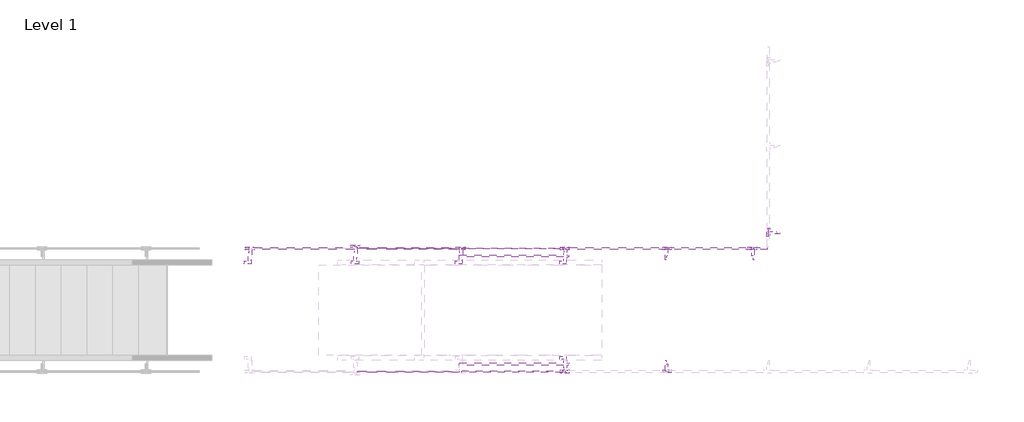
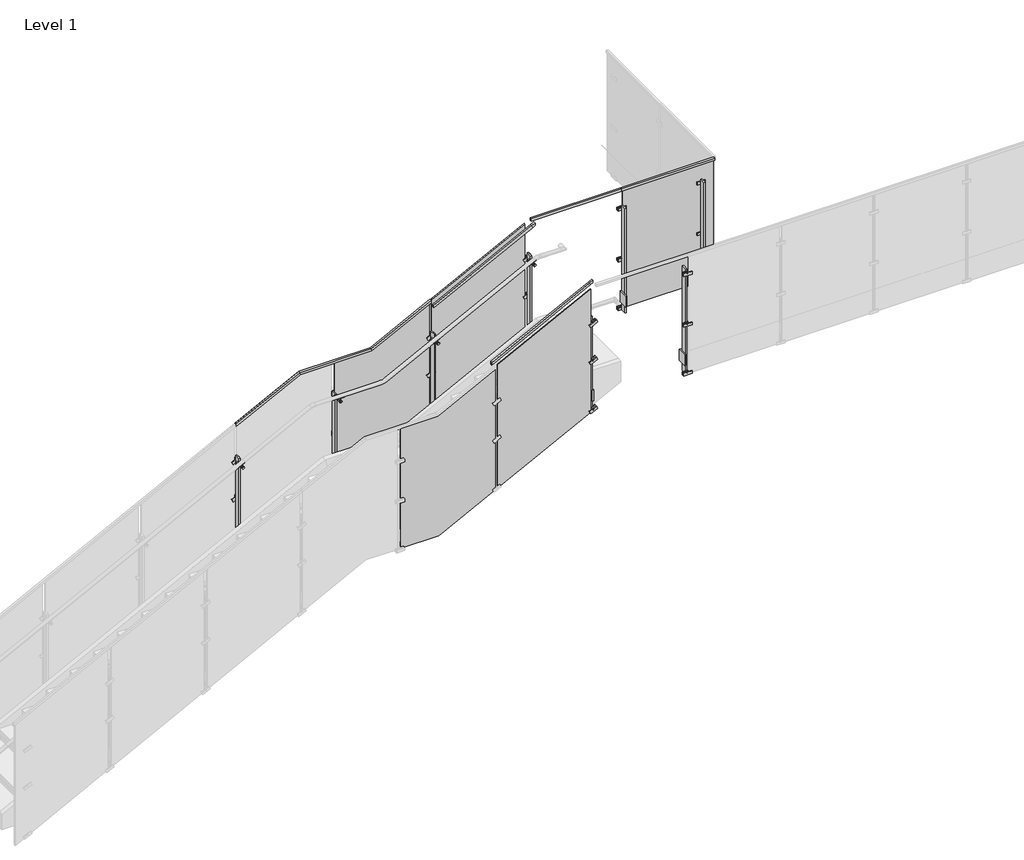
# One storey, part 35 of 37: 6 railings, 4 proxies.
"""IFC4 building model written with IfcOpenShell, lengths in millimetres."""

from ifc_helpers import new_model, si_unit, point, frame, frame_2d, origin, place, context, project, spatial, polyline, circle_curve, trimmed, segment, composite_curve, outline, extrude, faceted_brep, transform, mapped, element, save
from components import baluster_end_post_viva_solo_top_mount_5ac118a2, baluster_end_post_viva_solo_top_mount_22cecde8, baluster_end_post_viva_solo_top_mount_54df99a4, baluster_end_post_viva_solo_top_mount_d0627824, baluster_landing_panel_viva_solo_upper_standard_glass_c31046ff, baluster_landing_panel_viva_solo_upper_standard_glass_9b4894e7

model = new_model("IFC4")

# Units and contexts
model_context = context("Model", 3, world=origin())
ifc_project = project(units=[si_unit("LENGTHUNIT", "METRE", prefix="MILLI")], contexts=[model_context])

# Site, building, storey
site = spatial("IfcSite", under=ifc_project)
building = spatial("IfcBuilding", under=site)
storey = spatial("IfcBuildingStorey", under=building, Name="Level 1", Elevation=0.0)

# Proxies
placement = place(None, origin())
baluster_end_post_viva_solo_top_mount_shape = baluster_end_post_viva_solo_top_mount_5ac118a2(model_context)
element("IfcBuildingElementProxy", 1, Name="Baluster-End-Post-VIVA-SOLO-Top Mount : ANCHORED TO CONCRETE_FASCIA A1 MOUNT FOLD_STRAIGHT", ObjectType="Baluster-End-Post-VIVA-SOLO-Top Mount : ANCHORED TO CONCRETE_FASCIA A1 MOUNT FOLD_STRAIGHT", at=placement, inside=storey, context=model_context, shape_type="MappedRepresentation", body=[
    mapped(baluster_end_post_viva_solo_top_mount_shape, transform((9766.8486767, 33772.1570581, 3047.492), x_axis=(0.0, 1.0, 0.0), y_axis=(-1.0, 0.0, 0.0), z_axis=(0.0, 0.0, 1.0))),
])
baluster_end_post_viva_solo_top_mount_2_shape = baluster_end_post_viva_solo_top_mount_22cecde8(model_context)
element("IfcBuildingElementProxy", 2, Name="Baluster-End-Post-VIVA-SOLO-Top Mount : ANCHORED TO CONCRETE_FASCIA A1 MOUNT FOLD_STRAIGHT", ObjectType="Baluster-End-Post-VIVA-SOLO-Top Mount : ANCHORED TO CONCRETE_FASCIA A1 MOUNT FOLD_STRAIGHT", at=placement, inside=storey, context=model_context, shape_type="MappedRepresentation", body=[
    mapped(baluster_end_post_viva_solo_top_mount_2_shape, transform((9815.6346922, 33817.0879454, 3047.492), x_axis=(1.0, 0.0, 0.0), y_axis=(0.0, 1.0, 0.0), z_axis=(0.0, 0.0, 1.0))),
])
baluster_end_post_viva_solo_top_mount_3_shape = baluster_end_post_viva_solo_top_mount_54df99a4(model_context)
element("IfcBuildingElementProxy", 3, Name="Baluster-End-Post-VIVA-SOLO-Top Mount : ANCHORED TO CONCRETE_FASCIA A1 MOUNT FOLD_STRAIGHT", ObjectType="Baluster-End-Post-VIVA-SOLO-Top Mount : ANCHORED TO CONCRETE_FASCIA A1 MOUNT FOLD_STRAIGHT", at=placement, inside=storey, context=model_context, shape_type="MappedRepresentation", body=[
    mapped(baluster_end_post_viva_solo_top_mount_3_shape, transform((8799.6346922, 32455.5933835, 3047.492), x_axis=(-1.0, 0.0, 0.0), y_axis=(0.0, -1.0, 0.0), z_axis=(0.0, 0.0, 1.0))),
])
baluster_end_post_viva_solo_top_mount_4_shape = baluster_end_post_viva_solo_top_mount_d0627824(model_context)
element("IfcBuildingElementProxy", 4, Name="Baluster-End-Post-VIVA-SOLO-Top Mount : ANCHORED TO CONCRETE_FASCIA A1 MOUNT FOLD_STRAIGHT", ObjectType="Baluster-End-Post-VIVA-SOLO-Top Mount : ANCHORED TO CONCRETE_FASCIA A1 MOUNT FOLD_STRAIGHT", at=placement, inside=storey, context=model_context, shape_type="MappedRepresentation", body=[
    mapped(baluster_end_post_viva_solo_top_mount_4_shape, transform((8799.6346922, 33817.0879454, 3047.492), x_axis=(1.0, 0.0, 0.0), y_axis=(0.0, 1.0, 0.0), z_axis=(0.0, 0.0, 1.0))),
])

# Railings
element("IfcRailing", 5, ObjectType="VIVA-SOLO-Glass-Fascia Mount-Stair-A1_Right_Upper", at=placement, inside=storey, context=model_context, shape_type="SolidModel", body=[
    faceted_brep([(6699.3721922, 32577.8581645, 3564.4038176), (6699.3721922, 32600.0831645, 3564.4038176), (6699.3721922, 32600.0831645, 3535.902629), (6699.3721922, 32595.3206645, 3535.902629), (6699.3721922, 32595.3206645, 3559.0598447), (6699.3721922, 32582.6206645, 3559.0598447), (6699.3721922, 32582.6206645, 3535.902629), (6699.3721922, 32577.8581645, 3535.902629), (7766.1721922, 32577.8581645, 4107.4197243), (7766.1721922, 32600.0831645, 4107.4197243), (7777.694355, 32600.0831645, 4084.7834754), (7777.694355, 32595.3206645, 4084.7834754), (7768.3325977, 32595.3206645, 4103.1754276), (7768.3325977, 32582.6206645, 4103.1754276), (7777.694355, 32582.6206645, 4084.7834754), (7777.694355, 32577.8581645, 4084.7834754), (7805.6215672, 32577.8581645, 4127.5), (7805.6215672, 32577.8581645, 4098.9988114), (7805.6215672, 32582.6206645, 4098.9988114), (7805.6215672, 32582.6206645, 4122.1560271), (7805.6215672, 32595.3206645, 4122.1560271), (7805.6215672, 32595.3206645, 4098.9988114), (7805.6215672, 32600.0831645, 4098.9988114), (7805.6215672, 32600.0831645, 4127.5)], [[[0, 1, 2, 3, 4, 5, 6, 7]], [[1, 0, 8, 9]], [[2, 1, 9, 10]], [[3, 2, 10, 11]], [[4, 3, 11, 12]], [[5, 4, 12, 13]], [[6, 5, 13, 14]], [[7, 6, 14, 15]], [[0, 7, 15, 8]], [[16, 17, 18, 19, 20, 21, 22, 23]], [[9, 8, 16, 23]], [[10, 9, 23, 22]], [[11, 10, 22, 21]], [[12, 11, 21, 20]], [[13, 12, 20, 19]], [[14, 13, 19, 18]], [[15, 14, 18, 17]], [[8, 15, 17, 16]]]),
    extrude(outline(polyline([(4089.1567741, 7741.1552388), (3571.9987678, 6725.1552388), (2154.9327678, 6725.1552388), (2672.0907741, 7741.1552388), (4089.1567741, 7741.1552388)])), frame((0.0, 32506.4206645, 0.0), z_axis=(0.0, 1.0, 0.0), x_axis=(0.0, 0.0, 1.0)), (0.0, 0.0, 1.0), 12.7),
    extrude(outline(composite_curve([segment(trimmed(circle_curve(frame_2d((0.0, -7.0)), 7.0), [point((0.0, -14.0))], [point((0.0, 0.0))], False, "CARTESIAN"), True, "CONTINUOUS"), segment(trimmed(circle_curve(frame_2d((0.0, -7.0)), 7.0), [point((0.0, 0.0))], [point((0.0, -14.0))], False, "CARTESIAN"), True, "CONTINUOUS")], self_intersect=False)), frame((7772.7586852, 32644.6306015, 3678.3251604), z_axis=(-0.4457291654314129, 0.0, 0.8951678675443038), x_axis=(-0.8951678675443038, 0.0, -0.4457291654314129)), (0.0, 0.0, 1.0), 50.5982576),
    extrude(outline(composite_curve([segment(trimmed(circle_curve(frame_2d((3691.1275186, 7766.2910269)), 12.5), [point((3691.1275186, 7778.7910269))], [point((3691.1275186, 7753.7910269))], False, "CARTESIAN"), True, "CONTINUOUS"), segment(trimmed(circle_curve(frame_2d((3691.1275186, 7766.2910269)), 12.5), [point((3691.1275186, 7753.7910269))], [point((3691.1275186, 7778.7910269))], False, "CARTESIAN"), True, "CONTINUOUS")], self_intersect=False)), frame((0.0, 32552.6082406, 0.0), z_axis=(0.0, 1.0, 0.0), x_axis=(0.0, 0.0, 1.0)), (0.0, 0.0, 1.0), 112.87),
    extrude(outline(composite_curve([segment(trimmed(circle_curve(frame_2d((18.6575251, 0.3952034)), 19.05), [point((5.2466064, 13.9247916))], [point((5.2466064, -13.1343849))], True, "CARTESIAN"), True, "CONTINUOUS"), segment(polyline([(5.2466064, -13.1343849), (4.2292193, -14.1607745)]), True, "CONTINUOUS"), segment(trimmed(circle_curve(frame_2d((3.1638974, -13.1047966)), 1.5), [point((4.2292193, -14.1607745))], [point((2.0329757, -14.0901981))], False, "CARTESIAN"), True, "CONTINUOUS"), segment(trimmed(circle_curve(frame_2d((18.6575251, 0.3952034)), 22.05), [point((2.0329757, -14.0901981))], [point((2.0329757, 14.8806048))], False, "CARTESIAN"), True, "CONTINUOUS"), segment(trimmed(circle_curve(frame_2d((3.1638974, 13.8952034)), 1.5), [point((2.0329757, 14.8806048))], [point((4.2292193, 14.9511812))], False, "CARTESIAN"), True, "CONTINUOUS"), segment(polyline([(4.2292193, 14.9511812), (5.2466064, 13.9247916)]), True, "CONTINUOUS")], self_intersect=False)), frame((7714.0811368, 32653.3578339, 3709.4105963), z_axis=(0.8952329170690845, 0.0, 0.44559850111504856), x_axis=(-0.44559850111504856, 0.0, 0.8952329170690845)), (0.0, 0.0, 1.0), 74.5229187),
    extrude(outline(polyline([(7786.0159422, 32528.4551645), (7772.5221922, 32528.4551645), (7772.5221922, 32628.4676645), (7786.0159422, 32628.4676645), (7786.0159422, 32528.4551645)])), frame((0.0, 0.0, 2773.9197243), z_axis=(0.0, 0.0, 1.0), x_axis=(1.0, 0.0, 0.0)), (0.0, 0.0, 1.0), 127.0),
    extrude(outline(polyline([(7772.5221922, 32528.4551645), (7759.8221922, 32528.4551645), (7759.8221922, 32591.9551645), (7772.5221922, 32591.9551645), (7772.5221922, 32528.4551645)])), frame((0.0, 0.0, 2678.9961289), z_axis=(0.0, 0.0, 1.0), x_axis=(1.0, 0.0, 0.0)), (0.0, 0.0, 1.0), 1077.9740667),
    extrude(outline(polyline([(0.0, 88.9), (9.525, 88.9), (9.525, 0.0), (0.0, 0.0), (0.0, 88.9)])), frame((7813.0737684, 32518.9301645, 2697.2120059), z_axis=(-0.4383711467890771, 0.0, 0.8987940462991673), x_axis=(0.0, 1.0, 0.0)), (0.0, 0.0, 1.0), 31.75),
    extrude(outline(polyline([(0.0, 88.9), (9.525, 88.9), (9.525, 0.0), (0.0, 0.0), (0.0, 88.9)])), frame((7813.0737684, 32496.7051645, 2697.2120059), z_axis=(-0.43837114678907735, 0.0, 0.8987940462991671), x_axis=(0.0, 1.0, 0.0)), (0.0, 0.0, 1.0), 31.75),
    extrude(outline(polyline([(0.0, 88.9), (9.525, 88.9), (9.525, 0.0), (0.0, 0.0), (0.0, 88.9)])), frame((7813.0737684, 32518.9301645, 3264.4062278), z_axis=(-0.4383711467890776, 0.0, 0.8987940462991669), x_axis=(0.0, 1.0, 0.0)), (0.0, 0.0, 1.0), 31.75),
    extrude(outline(polyline([(0.0, 88.9), (9.525, 88.9), (9.525, 0.0), (0.0, 0.0), (0.0, 88.9)])), frame((7813.0737684, 32496.7051645, 3695.6692403), z_axis=(-0.4383711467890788, 0.0, 0.8987940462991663), x_axis=(0.0, 1.0, 0.0)), (0.0, 0.0, 1.0), 31.75),
    extrude(outline(polyline([(0.0, 88.9), (9.525, 88.9), (9.525, 0.0), (0.0, 0.0), (0.0, 88.9)])), frame((7813.0737684, 32518.9301645, 3695.6692403), z_axis=(-0.4383711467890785, 0.0, 0.8987940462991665), x_axis=(0.0, 1.0, 0.0)), (0.0, 0.0, 1.0), 31.75),
    extrude(outline(polyline([(0.0, 88.9), (9.525, 88.9), (9.525, 0.0), (0.0, 0.0), (0.0, 88.9)])), frame((7813.0737684, 32496.7051645, 3264.4062278), z_axis=(-0.438371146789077, 0.0, 0.8987940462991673), x_axis=(0.0, 1.0, 0.0)), (0.0, 0.0, 1.0), 31.75),
    extrude(outline(composite_curve([segment(trimmed(circle_curve(frame_2d((2695.7364865, 7766.1632311)), 6.35), [point((2695.7364865, 7772.5132311))], [point((2695.7364865, 7759.8132311))], False, "CARTESIAN"), True, "CONTINUOUS"), segment(trimmed(circle_curve(frame_2d((2695.7364865, 7766.1632311)), 6.35), [point((2695.7364865, 7759.8132311))], [point((2695.7364865, 7772.5132311))], False, "CARTESIAN"), True, "CONTINUOUS")], self_intersect=False)), frame((0.0, 32498.2926645, 0.0), z_axis=(0.0, 1.0, 0.0), x_axis=(0.0, 0.0, 1.0)), (0.0, 0.0, 1.0), 7.9375),
    extrude(outline(composite_curve([segment(trimmed(circle_curve(frame_2d((3256.2752906, 7766.1632311)), 6.35), [point((3256.2752906, 7772.5132311))], [point((3256.2752906, 7759.8132311))], False, "CARTESIAN"), True, "CONTINUOUS"), segment(trimmed(circle_curve(frame_2d((3256.2752906, 7766.1632311)), 6.35), [point((3256.2752906, 7759.8132311))], [point((3256.2752906, 7772.5132311))], False, "CARTESIAN"), True, "CONTINUOUS")], self_intersect=False)), frame((0.0, 32506.2301645, 0.0), z_axis=(0.0, 1.0, 0.0), x_axis=(0.0, 0.0, 1.0)), (0.0, 0.0, 1.0), 12.7),
    extrude(outline(composite_curve([segment(trimmed(circle_curve(frame_2d((3690.4582336, 7766.1632311)), 6.35), [point((3690.4582336, 7772.5132311))], [point((3690.4582336, 7759.8132311))], False, "CARTESIAN"), True, "CONTINUOUS"), segment(trimmed(circle_curve(frame_2d((3690.4582336, 7766.1632311)), 6.35), [point((3690.4582336, 7759.8132311))], [point((3690.4582336, 7772.5132311))], False, "CARTESIAN"), True, "CONTINUOUS")], self_intersect=False)), frame((0.0, 32506.2301645, 0.0), z_axis=(0.0, 1.0, 0.0), x_axis=(0.0, 0.0, 1.0)), (0.0, 0.0, 1.0), 12.7),
])
element("IfcRailing", 6, ObjectType="VIVA-SOLO-Glass-Fascia Mount-Stair-A1_Left_Upper", at=placement, inside=storey, context=model_context, shape_type="SolidModel", body=[
    faceted_brep([(6699.3721922, 33672.5981645, 3564.4038176), (6699.3721922, 33694.8231645, 3564.4038176), (6699.3721922, 33694.8231645, 3535.902629), (6699.3721922, 33690.0606645, 3535.902629), (6699.3721922, 33690.0606645, 3559.0598447), (6699.3721922, 33677.3606645, 3559.0598447), (6699.3721922, 33677.3606645, 3535.902629), (6699.3721922, 33672.5981645, 3535.902629), (7766.1721922, 33672.5981645, 4107.4197243), (7766.1721922, 33694.8231645, 4107.4197243), (7777.694355, 33694.8231645, 4084.7834754), (7777.694355, 33690.0606645, 4084.7834754), (7768.3325977, 33690.0606645, 4103.1754276), (7768.3325977, 33677.3606645, 4103.1754276), (7777.694355, 33677.3606645, 4084.7834754), (7777.694355, 33672.5981645, 4084.7834754), (7805.6215672, 33672.5981645, 4127.5), (7805.6215672, 33672.5981645, 4098.9988114), (7805.6215672, 33677.3606645, 4098.9988114), (7805.6215672, 33677.3606645, 4122.1560271), (7805.6215672, 33690.0606645, 4122.1560271), (7805.6215672, 33690.0606645, 4098.9988114), (7805.6215672, 33694.8231645, 4098.9988114), (7805.6215672, 33694.8231645, 4127.5)], [[[0, 1, 2, 3, 4, 5, 6, 7]], [[1, 0, 8, 9]], [[2, 1, 9, 10]], [[3, 2, 10, 11]], [[4, 3, 11, 12]], [[5, 4, 12, 13]], [[6, 5, 13, 14]], [[7, 6, 14, 15]], [[0, 7, 15, 8]], [[16, 17, 18, 19, 20, 21, 22, 23]], [[9, 8, 16, 23]], [[10, 9, 23, 22]], [[11, 10, 22, 21]], [[12, 11, 21, 20]], [[13, 12, 20, 19]], [[14, 13, 19, 18]], [[15, 14, 18, 17]], [[8, 15, 17, 16]]]),
    extrude(outline(polyline([(4089.1567741, 7741.1552388), (3571.9987678, 6725.1552388), (2154.9327678, 6725.1552388), (2672.0907741, 7741.1552388), (4089.1567741, 7741.1552388)])), frame((0.0, 33753.5606645, 0.0), z_axis=(0.0, 1.0, 0.0), x_axis=(0.0, 0.0, 1.0)), (0.0, 0.0, 1.0), 12.7),
    extrude(outline(composite_curve([segment(trimmed(circle_curve(frame_2d((0.0, 7.0)), 7.0), [point((0.0, 14.0))], [point((0.0, 0.0))], False, "CARTESIAN"), True, "CONTINUOUS"), segment(trimmed(circle_curve(frame_2d((0.0, 7.0)), 7.0), [point((0.0, 0.0))], [point((0.0, 14.0))], False, "CARTESIAN"), True, "CONTINUOUS")], self_intersect=False)), frame((7772.7586852, 33628.0507274, 3678.3251604), z_axis=(-0.4457291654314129, 0.0, 0.8951678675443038), x_axis=(-0.8951678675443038, 0.0, -0.4457291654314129)), (0.0, 0.0, 1.0), 50.5982576),
    extrude(outline(composite_curve([segment(trimmed(circle_curve(frame_2d((3691.1275186, 7766.2910269)), 12.5), [point((3691.1275186, 7778.7910269))], [point((3691.1275186, 7753.7910269))], False, "CARTESIAN"), True, "CONTINUOUS"), segment(trimmed(circle_curve(frame_2d((3691.1275186, 7766.2910269)), 12.5), [point((3691.1275186, 7753.7910269))], [point((3691.1275186, 7778.7910269))], False, "CARTESIAN"), True, "CONTINUOUS")], self_intersect=False)), frame((0.0, 33607.2030883, 0.0), z_axis=(0.0, 1.0, 0.0), x_axis=(0.0, 0.0, 1.0)), (0.0, 0.0, 1.0), 112.87),
    extrude(outline(composite_curve([segment(polyline([(5.2466064, -13.9247916), (4.2292193, -14.9511812)]), True, "CONTINUOUS"), segment(trimmed(circle_curve(frame_2d((3.1638974, -13.8952034)), 1.5), [point((4.2292193, -14.9511812))], [point((2.0329757, -14.8806048))], False, "CARTESIAN"), True, "CONTINUOUS"), segment(trimmed(circle_curve(frame_2d((18.6575251, -0.3952034)), 22.05), [point((2.0329757, -14.8806048))], [point((2.0329757, 14.0901981))], False, "CARTESIAN"), True, "CONTINUOUS"), segment(trimmed(circle_curve(frame_2d((3.1638974, 13.1047966)), 1.5), [point((2.0329757, 14.0901981))], [point((4.2292193, 14.1607745))], False, "CARTESIAN"), True, "CONTINUOUS"), segment(polyline([(4.2292193, 14.1607745), (5.2466064, 13.1343849)]), True, "CONTINUOUS"), segment(trimmed(circle_curve(frame_2d((18.6575251, -0.3952034)), 19.05), [point((5.2466064, 13.1343849))], [point((5.2466064, -13.9247916))], True, "CARTESIAN"), True, "CONTINUOUS")], self_intersect=False)), frame((7714.0811368, 33619.323495, 3709.4105963), z_axis=(0.8952329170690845, 0.0, 0.44559850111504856), x_axis=(-0.44559850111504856, 0.0, 0.8952329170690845)), (0.0, 0.0, 1.0), 74.5229187),
    extrude(outline(polyline([(7786.0159422, 33744.2261645), (7786.0159422, 33644.2136645), (7772.5221922, 33644.2136645), (7772.5221922, 33744.2261645), (7786.0159422, 33744.2261645)])), frame((0.0, 0.0, 2773.9197243), z_axis=(0.0, 0.0, 1.0), x_axis=(1.0, 0.0, 0.0)), (0.0, 0.0, 1.0), 127.0),
    extrude(outline(polyline([(7772.5221922, 33744.2261645), (7772.5221922, 33680.7261645), (7759.8221922, 33680.7261645), (7759.8221922, 33744.2261645), (7772.5221922, 33744.2261645)])), frame((0.0, 0.0, 2678.9961289), z_axis=(0.0, 0.0, 1.0), x_axis=(1.0, 0.0, 0.0)), (0.0, 0.0, 1.0), 1077.9740667),
    extrude(outline(polyline([(0.0, -88.9), (0.0, 0.0), (9.525, 0.0), (9.525, -88.9), (0.0, -88.9)])), frame((7813.0737684, 33753.7511645, 2697.2120059), z_axis=(-0.4383711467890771, 0.0, 0.8987940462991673), x_axis=(0.0, -1.0, 0.0)), (0.0, 0.0, 1.0), 31.75),
    extrude(outline(polyline([(0.0, -88.9), (0.0, 0.0), (9.525, 0.0), (9.525, -88.9), (0.0, -88.9)])), frame((7813.0737684, 33775.9761645, 2697.2120059), z_axis=(-0.43837114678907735, 0.0, 0.8987940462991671), x_axis=(0.0, -1.0, 0.0)), (0.0, 0.0, 1.0), 31.75),
    extrude(outline(polyline([(0.0, -88.9), (0.0, 0.0), (9.525, 0.0), (9.525, -88.9), (0.0, -88.9)])), frame((7813.0737684, 33753.7511645, 3264.4062278), z_axis=(-0.4383711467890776, 0.0, 0.8987940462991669), x_axis=(0.0, -1.0, 0.0)), (0.0, 0.0, 1.0), 31.75),
    extrude(outline(polyline([(0.0, -88.9), (0.0, 0.0), (9.525, 0.0), (9.525, -88.9), (0.0, -88.9)])), frame((7813.0737684, 33775.9761645, 3695.6692403), z_axis=(-0.4383711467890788, 0.0, 0.8987940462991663), x_axis=(0.0, -1.0, 0.0)), (0.0, 0.0, 1.0), 31.75),
    extrude(outline(polyline([(0.0, -88.9), (0.0, 0.0), (9.525, 0.0), (9.525, -88.9), (0.0, -88.9)])), frame((7813.0737684, 33753.7511645, 3695.6692403), z_axis=(-0.4383711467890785, 0.0, 0.8987940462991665), x_axis=(0.0, -1.0, 0.0)), (0.0, 0.0, 1.0), 31.75),
    extrude(outline(polyline([(0.0, -88.9), (0.0, 0.0), (9.525, 0.0), (9.525, -88.9), (0.0, -88.9)])), frame((7813.0737684, 33775.9761645, 3264.4062278), z_axis=(-0.438371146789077, 0.0, 0.8987940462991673), x_axis=(0.0, -1.0, 0.0)), (0.0, 0.0, 1.0), 31.75),
    extrude(outline(composite_curve([segment(trimmed(circle_curve(frame_2d((2695.7364865, 7766.1632311)), 6.35), [point((2695.7364865, 7772.5132311))], [point((2695.7364865, 7759.8132311))], False, "CARTESIAN"), True, "CONTINUOUS"), segment(trimmed(circle_curve(frame_2d((2695.7364865, 7766.1632311)), 6.35), [point((2695.7364865, 7759.8132311))], [point((2695.7364865, 7772.5132311))], False, "CARTESIAN"), True, "CONTINUOUS")], self_intersect=False)), frame((0.0, 33766.4511645, 0.0), z_axis=(0.0, 1.0, 0.0), x_axis=(0.0, 0.0, 1.0)), (0.0, 0.0, 1.0), 7.9375),
    extrude(outline(composite_curve([segment(trimmed(circle_curve(frame_2d((3256.2752906, 7766.1632311)), 6.35), [point((3256.2752906, 7772.5132311))], [point((3256.2752906, 7759.8132311))], False, "CARTESIAN"), True, "CONTINUOUS"), segment(trimmed(circle_curve(frame_2d((3256.2752906, 7766.1632311)), 6.35), [point((3256.2752906, 7759.8132311))], [point((3256.2752906, 7772.5132311))], False, "CARTESIAN"), True, "CONTINUOUS")], self_intersect=False)), frame((0.0, 33753.7511645, 0.0), z_axis=(0.0, 1.0, 0.0), x_axis=(0.0, 0.0, 1.0)), (0.0, 0.0, 1.0), 12.7),
    extrude(outline(composite_curve([segment(trimmed(circle_curve(frame_2d((3690.4582336, 7766.1632311)), 6.35), [point((3690.4582336, 7772.5132311))], [point((3690.4582336, 7759.8132311))], False, "CARTESIAN"), True, "CONTINUOUS"), segment(trimmed(circle_curve(frame_2d((3690.4582336, 7766.1632311)), 6.35), [point((3690.4582336, 7759.8132311))], [point((3690.4582336, 7772.5132311))], False, "CARTESIAN"), True, "CONTINUOUS")], self_intersect=False)), frame((0.0, 33753.7511645, 0.0), z_axis=(0.0, 1.0, 0.0), x_axis=(0.0, 0.0, 1.0)), (0.0, 0.0, 1.0), 12.7),
])
baluster_landing_panel_viva_solo_upper_standard_glass_shape = baluster_landing_panel_viva_solo_upper_standard_glass_c31046ff(model_context)
element("IfcRailing", 7, ObjectType="Baluster-Landing-Panel-VIVA-SOLO-Upper : Standard_Glass", at=placement, inside=storey, context=model_context, shape_type="MappedRepresentation", body=[
    mapped(baluster_landing_panel_viva_solo_upper_standard_glass_shape, transform((6698.6003065, 32474.8129352, 2120.3478261), x_axis=(0.0, 1.0, 0.0), y_axis=(-1.0, 0.0, 0.0), z_axis=(0.0, 0.0, 1.0))),
])
baluster_landing_panel_viva_solo_upper_standard_glass_2_shape = baluster_landing_panel_viva_solo_upper_standard_glass_9b4894e7(model_context)
element("IfcRailing", 8, ObjectType="Baluster-Landing-Panel-VIVA-SOLO-Upper : Standard_Glass", at=placement, inside=storey, context=model_context, shape_type="MappedRepresentation", body=[
    mapped(baluster_landing_panel_viva_solo_upper_standard_glass_2_shape, transform((6698.6003065, 33797.8683937, 2120.3478261), x_axis=(0.0, -1.0, 0.0), y_axis=(1.0, 0.0, 0.0), z_axis=(0.0, 0.0, 1.0))),
])
element("IfcRailing", 9, ObjectType="VIVA-SOLO-Glass-Fascia Mount-Stair-A1-Landing", at=placement, inside=storey, context=model_context, shape_type="SolidModel", body=[
    faceted_brep([(4578.4721922, 33749.1156645, 2882.4016967), (4578.4721922, 33771.3406645, 2882.4016967), (4578.4721922, 33771.3406645, 2853.9005081), (4578.4721922, 33766.5781645, 2853.9005081), (4578.4721922, 33766.5781645, 2877.0577238), (4578.4721922, 33753.8781645, 2877.0577238), (4578.4721922, 33753.8781645, 2853.9005081), (4578.4721922, 33749.1156645, 2853.9005081), (5276.9721922, 33749.1156645, 3237.9478261), (5276.9721922, 33771.3406645, 3237.9478261), (5283.0647357, 33771.3406645, 3212.5478261), (5283.0647357, 33766.5781645, 3212.5478261), (5278.1145441, 33766.5781645, 3233.1853261), (5278.1145441, 33753.8781645, 3233.1853261), (5283.0647357, 33753.8781645, 3212.5478261), (5283.0647357, 33749.1156645, 3212.5478261), (6058.0221922, 33749.1156645, 3237.9478261), (6058.0221922, 33771.3406645, 3237.9478261), (6064.1147357, 33771.3406645, 3212.5478261), (6064.1147357, 33766.5781645, 3212.5478261), (6059.1645441, 33766.5781645, 3233.1853261), (6059.1645441, 33753.8781645, 3233.1853261), (6064.1147357, 33753.8781645, 3212.5478261), (6064.1147357, 33749.1156645, 3212.5478261), (6712.0721922, 33749.1156645, 3570.8682927), (6712.0721922, 33749.1156645, 3542.3671041), (6712.0721922, 33753.8781645, 3542.3671041), (6712.0721922, 33753.8781645, 3565.5243198), (6712.0721922, 33766.5781645, 3565.5243198), (6712.0721922, 33766.5781645, 3542.3671041), (6712.0721922, 33771.3406645, 3542.3671041), (6712.0721922, 33771.3406645, 3570.8682927)], [[[0, 1, 2, 3, 4, 5, 6, 7]], [[1, 0, 8, 9]], [[2, 1, 9, 10]], [[3, 2, 10, 11]], [[4, 3, 11, 12]], [[5, 4, 12, 13]], [[6, 5, 13, 14]], [[7, 6, 14, 15]], [[0, 7, 15, 8]], [[9, 8, 16, 17]], [[10, 9, 17, 18]], [[11, 10, 18, 19]], [[12, 11, 19, 20]], [[13, 12, 20, 21]], [[14, 13, 21, 22]], [[15, 14, 22, 23]], [[8, 15, 23, 16]], [[24, 25, 26, 27, 28, 29, 30, 31]], [[17, 16, 24, 31]], [[18, 17, 31, 30]], [[19, 18, 30, 29]], [[20, 19, 29, 28]], [[21, 20, 28, 27]], [[22, 21, 27, 26]], [[23, 22, 26, 25]], [[16, 23, 25, 24]]]),
    extrude(outline(composite_curve([segment(trimmed(circle_curve(frame_2d((0.0, 7.0)), 7.0), [point((0.0, 14.0))], [point((0.0, 0.0))], False, "CARTESIAN"), True, "CONTINUOUS"), segment(trimmed(circle_curve(frame_2d((0.0, 7.0)), 7.0), [point((0.0, 0.0))], [point((0.0, 14.0))], False, "CARTESIAN"), True, "CONTINUOUS")], self_intersect=False)), frame((5645.6746913, 33628.0507274, 2843.8026165), z_axis=(-0.007954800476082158, 0.0, 0.9999683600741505), x_axis=(-0.9999683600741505, 0.0, -0.007954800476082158)), (0.0, 0.0, 1.0), 51.0401258),
    extrude(outline(composite_curve([segment(polyline([(33633.2482866, 2903.3028261), (33634.2746762, 2902.285439)]), True, "CONTINUOUS"), segment(trimmed(circle_curve(frame_2d((33633.2186984, 2901.2201171)), 1.5), [point((33634.2746762, 2902.285439))], [point((33634.2040998, 2900.0891954))], False, "CARTESIAN"), True, "CONTINUOUS"), segment(trimmed(circle_curve(frame_2d((33619.7186984, 2916.7137449)), 22.05), [point((33634.2040998, 2900.0891954))], [point((33605.2332969, 2900.0891954))], False, "CARTESIAN"), True, "CONTINUOUS"), segment(trimmed(circle_curve(frame_2d((33606.2186984, 2901.2201171)), 1.5), [point((33605.2332969, 2900.0891954))], [point((33605.1627205, 2902.285439))], False, "CARTESIAN"), True, "CONTINUOUS"), segment(polyline([(33605.1627205, 2902.285439), (33606.1891101, 2903.3028261)]), True, "CONTINUOUS"), segment(trimmed(circle_curve(frame_2d((33619.7186984, 2916.7137449)), 19.05), [point((33606.1891101, 2903.3028261))], [point((33633.2482866, 2903.3028261))], True, "CARTESIAN"), True, "CONTINUOUS")], self_intersect=False)), frame((5606.576729, 0.0, 0.0), z_axis=(1.0, 0.0, 0.0), x_axis=(0.0, 1.0, 0.0)), (0.0, 0.0, 1.0), 74.5229187),
    extrude(outline(composite_curve([segment(trimmed(circle_curve(frame_2d((2858.2194241, 5645.3910269)), 12.5), [point((2858.2194241, 5657.8910269))], [point((2858.2194241, 5632.8910269))], False, "CARTESIAN"), True, "CONTINUOUS"), segment(trimmed(circle_curve(frame_2d((2858.2194241, 5645.3910269)), 12.5), [point((2858.2194241, 5632.8910269))], [point((2858.2194241, 5657.8910269))], False, "CARTESIAN"), True, "CONTINUOUS")], self_intersect=False)), frame((0.0, 33607.2030883, 0.0), z_axis=(0.0, 1.0, 0.0), x_axis=(0.0, 0.0, 1.0)), (0.0, 0.0, 1.0), 112.87),
    extrude(outline(polyline([(5665.1159422, 33764.8636645), (5665.1159422, 33664.8511645), (5651.6221922, 33664.8511645), (5651.6221922, 33764.8636645), (5665.1159422, 33764.8636645)])), frame((0.0, 0.0, 1904.4478261), z_axis=(0.0, 0.0, 1.0), x_axis=(1.0, 0.0, 0.0)), (0.0, 0.0, 1.0), 127.0),
    extrude(outline(polyline([(5651.6221922, 33764.8636645), (5651.6221922, 33701.3636645), (5638.9221922, 33701.3636645), (5638.9221922, 33764.8636645), (5651.6221922, 33764.8636645)])), frame((0.0, 0.0, 1809.5242307), z_axis=(0.0, 0.0, 1.0), x_axis=(1.0, 0.0, 0.0)), (0.0, 0.0, 1.0), 1077.9740667),
    extrude(outline(polyline([(5600.8221922, 33774.3886645), (5689.7221922, 33774.3886645), (5689.7221922, 33764.8636645), (5600.8221922, 33764.8636645), (5600.8221922, 33774.3886645)])), frame((0.0, 0.0, 1809.492795), z_axis=(0.0, 0.0, 1.0), x_axis=(1.0, 0.0, 0.0)), (0.0, 0.0, 1.0), 31.75),
    extrude(outline(polyline([(5600.8221922, 33796.6136645), (5689.7221922, 33796.6136645), (5689.7221922, 33787.0886645), (5600.8221922, 33787.0886645), (5600.8221922, 33796.6136645)])), frame((0.0, 0.0, 1809.492795), z_axis=(0.0, 0.0, 1.0), x_axis=(1.0, 0.0, 0.0)), (0.0, 0.0, 1.0), 31.75),
    extrude(outline(polyline([(5600.8221922, 33774.3886645), (5689.7221922, 33774.3886645), (5689.7221922, 33764.8636645), (5600.8221922, 33764.8636645), (5600.8221922, 33774.3886645)])), frame((0.0, 0.0, 2372.3388955), z_axis=(0.0, 0.0, 1.0), x_axis=(1.0, 0.0, 0.0)), (0.0, 0.0, 1.0), 31.75),
    extrude(outline(polyline([(5600.8221922, 33774.3886645), (5689.7221922, 33774.3886645), (5689.7221922, 33764.8636645), (5600.8221922, 33764.8636645), (5600.8221922, 33774.3886645)])), frame((0.0, 0.0, 2831.6470448), z_axis=(0.0, 0.0, 1.0), x_axis=(1.0, 0.0, 0.0)), (0.0, 0.0, 1.0), 31.75),
    extrude(outline(polyline([(5600.8221922, 33796.6136645), (5689.7221922, 33796.6136645), (5689.7221922, 33787.0886645), (5600.8221922, 33787.0886645), (5600.8221922, 33796.6136645)])), frame((0.0, 0.0, 2372.3388955), z_axis=(0.0, 0.0, 1.0), x_axis=(1.0, 0.0, 0.0)), (0.0, 0.0, 1.0), 31.75),
    extrude(outline(polyline([(5600.8221922, 33796.6136645), (5689.7221922, 33796.6136645), (5689.7221922, 33787.0886645), (5600.8221922, 33787.0886645), (5600.8221922, 33796.6136645)])), frame((0.0, 0.0, 2831.6470448), z_axis=(0.0, 0.0, 1.0), x_axis=(1.0, 0.0, 0.0)), (0.0, 0.0, 1.0), 31.75),
    extrude(outline(composite_curve([segment(trimmed(circle_curve(frame_2d((1825.7648458, 5645.2632311)), 6.35), [point((1825.7648458, 5651.6132311))], [point((1825.7648458, 5638.9132311))], False, "CARTESIAN"), True, "CONTINUOUS"), segment(trimmed(circle_curve(frame_2d((1825.7648458, 5645.2632311)), 6.35), [point((1825.7648458, 5638.9132311))], [point((1825.7648458, 5651.6132311))], False, "CARTESIAN"), True, "CONTINUOUS")], self_intersect=False)), frame((0.0, 33774.3886645, 0.0), z_axis=(0.0, 1.0, 0.0), x_axis=(0.0, 0.0, 1.0)), (0.0, 0.0, 1.0), 12.7),
    extrude(outline(composite_curve([segment(trimmed(circle_curve(frame_2d((2388.2138955, 5645.2721922)), 6.35), [point((2388.2138955, 5651.6221922))], [point((2388.2138955, 5638.9221922))], False, "CARTESIAN"), True, "CONTINUOUS"), segment(trimmed(circle_curve(frame_2d((2388.2138955, 5645.2721922)), 6.35), [point((2388.2138955, 5638.9221922))], [point((2388.2138955, 5651.6221922))], False, "CARTESIAN"), True, "CONTINUOUS")], self_intersect=False)), frame((0.0, 33774.3886645, 0.0), z_axis=(0.0, 1.0, 0.0), x_axis=(0.0, 0.0, 1.0)), (0.0, 0.0, 1.0), 12.7),
    extrude(outline(composite_curve([segment(trimmed(circle_curve(frame_2d((2847.5220448, 5645.2721922)), 6.35), [point((2847.5220448, 5651.6221922))], [point((2847.5220448, 5638.9221922))], False, "CARTESIAN"), True, "CONTINUOUS"), segment(trimmed(circle_curve(frame_2d((2847.5220448, 5645.2721922)), 6.35), [point((2847.5220448, 5638.9221922))], [point((2847.5220448, 5651.6221922))], False, "CARTESIAN"), True, "CONTINUOUS")], self_intersect=False)), frame((0.0, 33774.3886645, 0.0), z_axis=(0.0, 1.0, 0.0), x_axis=(0.0, 0.0, 1.0)), (0.0, 0.0, 1.0), 12.7),
    extrude(outline(composite_curve([segment(trimmed(circle_curve(frame_2d((0.0, 7.0)), 7.0), [point((0.0, 14.0))], [point((0.0, 0.0))], False, "CARTESIAN"), True, "CONTINUOUS"), segment(trimmed(circle_curve(frame_2d((0.0, 7.0)), 7.0), [point((0.0, 0.0))], [point((0.0, 14.0))], False, "CARTESIAN"), True, "CONTINUOUS")], self_intersect=False)), frame((6718.6586852, 33628.0507274, 3141.7737288), z_axis=(-0.4457291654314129, 0.0, 0.8951678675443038), x_axis=(-0.8951678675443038, 0.0, -0.4457291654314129)), (0.0, 0.0, 1.0), 50.5982576),
    extrude(outline(composite_curve([segment(trimmed(circle_curve(frame_2d((3154.576087, 6712.1910269)), 12.5), [point((3154.576087, 6724.6910269))], [point((3154.576087, 6699.6910269))], False, "CARTESIAN"), True, "CONTINUOUS"), segment(trimmed(circle_curve(frame_2d((3154.576087, 6712.1910269)), 12.5), [point((3154.576087, 6699.6910269))], [point((3154.576087, 6724.6910269))], False, "CARTESIAN"), True, "CONTINUOUS")], self_intersect=False)), frame((0.0, 33607.2030883, 0.0), z_axis=(0.0, 1.0, 0.0), x_axis=(0.0, 0.0, 1.0)), (0.0, 0.0, 1.0), 112.87),
    extrude(outline(composite_curve([segment(polyline([(5.2466064, -13.9247916), (4.2292193, -14.9511812)]), True, "CONTINUOUS"), segment(trimmed(circle_curve(frame_2d((3.1638974, -13.8952034)), 1.5), [point((4.2292193, -14.9511812))], [point((2.0329757, -14.8806048))], False, "CARTESIAN"), True, "CONTINUOUS"), segment(trimmed(circle_curve(frame_2d((18.6575251, -0.3952034)), 22.05), [point((2.0329757, -14.8806048))], [point((2.0329757, 14.0901981))], False, "CARTESIAN"), True, "CONTINUOUS"), segment(trimmed(circle_curve(frame_2d((3.1638974, 13.1047966)), 1.5), [point((2.0329757, 14.0901981))], [point((4.2292193, 14.1607745))], False, "CARTESIAN"), True, "CONTINUOUS"), segment(polyline([(4.2292193, 14.1607745), (5.2466064, 13.1343849)]), True, "CONTINUOUS"), segment(trimmed(circle_curve(frame_2d((18.6575251, -0.3952034)), 19.05), [point((5.2466064, 13.1343849))], [point((5.2466064, -13.9247916))], True, "CARTESIAN"), True, "CONTINUOUS")], self_intersect=False)), frame((6659.9811368, 33619.323495, 3172.8591647), z_axis=(0.8952329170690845, 0.0, 0.44559850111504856), x_axis=(-0.44559850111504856, 0.0, 0.8952329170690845)), (0.0, 0.0, 1.0), 74.5229187),
    extrude(outline(polyline([(6731.9159422, 33744.2261645), (6731.9159422, 33644.2136645), (6718.4221922, 33644.2136645), (6718.4221922, 33744.2261645), (6731.9159422, 33744.2261645)])), frame((0.0, 0.0, 2237.3682927), z_axis=(0.0, 0.0, 1.0), x_axis=(1.0, 0.0, 0.0)), (0.0, 0.0, 1.0), 127.0),
    extrude(outline(polyline([(6718.4221922, 33744.2261645), (6718.4221922, 33680.7261645), (6705.7221922, 33680.7261645), (6705.7221922, 33744.2261645), (6718.4221922, 33744.2261645)])), frame((0.0, 0.0, 2142.4446973), z_axis=(0.0, 0.0, 1.0), x_axis=(1.0, 0.0, 0.0)), (0.0, 0.0, 1.0), 1077.9740667),
    extrude(outline(polyline([(0.0, -88.9), (0.0, 0.0), (9.525, 0.0), (9.525, -88.9), (0.0, -88.9)])), frame((6758.9737684, 33753.7511645, 2160.6605743), z_axis=(-0.4383711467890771, 0.0, 0.8987940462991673), x_axis=(0.0, -1.0, 0.0)), (0.0, 0.0, 1.0), 31.75),
    extrude(outline(polyline([(0.0, -88.9), (0.0, 0.0), (9.525, 0.0), (9.525, -88.9), (0.0, -88.9)])), frame((6758.9737684, 33775.9761645, 2160.6605743), z_axis=(-0.43837114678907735, 0.0, 0.8987940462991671), x_axis=(0.0, -1.0, 0.0)), (0.0, 0.0, 1.0), 31.75),
    extrude(outline(polyline([(0.0, -88.9), (0.0, 0.0), (9.525, 0.0), (9.525, -88.9), (0.0, -88.9)])), frame((6758.9737684, 33753.7511645, 2727.8547962), z_axis=(-0.4383711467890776, 0.0, 0.8987940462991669), x_axis=(0.0, -1.0, 0.0)), (0.0, 0.0, 1.0), 31.75),
    extrude(outline(polyline([(0.0, -88.9), (0.0, 0.0), (9.525, 0.0), (9.525, -88.9), (0.0, -88.9)])), frame((6758.9737684, 33775.9761645, 3159.1178087), z_axis=(-0.4383711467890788, 0.0, 0.8987940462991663), x_axis=(0.0, -1.0, 0.0)), (0.0, 0.0, 1.0), 31.75),
    extrude(outline(polyline([(0.0, -88.9), (0.0, 0.0), (9.525, 0.0), (9.525, -88.9), (0.0, -88.9)])), frame((6758.9737684, 33753.7511645, 3159.1178087), z_axis=(-0.4383711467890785, 0.0, 0.8987940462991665), x_axis=(0.0, -1.0, 0.0)), (0.0, 0.0, 1.0), 31.75),
    extrude(outline(polyline([(0.0, -88.9), (0.0, 0.0), (9.525, 0.0), (9.525, -88.9), (0.0, -88.9)])), frame((6758.9737684, 33775.9761645, 2727.8547962), z_axis=(-0.438371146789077, 0.0, 0.8987940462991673), x_axis=(0.0, -1.0, 0.0)), (0.0, 0.0, 1.0), 31.75),
    extrude(outline(composite_curve([segment(trimmed(circle_curve(frame_2d((2159.1850549, 6712.0632311)), 6.35), [point((2159.1850549, 6718.4132311))], [point((2159.1850549, 6705.7132311))], False, "CARTESIAN"), True, "CONTINUOUS"), segment(trimmed(circle_curve(frame_2d((2159.1850549, 6712.0632311)), 6.35), [point((2159.1850549, 6705.7132311))], [point((2159.1850549, 6718.4132311))], False, "CARTESIAN"), True, "CONTINUOUS")], self_intersect=False)), frame((0.0, 33766.4511645, 0.0), z_axis=(0.0, 1.0, 0.0), x_axis=(0.0, 0.0, 1.0)), (0.0, 0.0, 1.0), 7.9375),
    extrude(outline(composite_curve([segment(trimmed(circle_curve(frame_2d((2719.723859, 6712.0632311)), 6.35), [point((2719.723859, 6718.4132311))], [point((2719.723859, 6705.7132311))], False, "CARTESIAN"), True, "CONTINUOUS"), segment(trimmed(circle_curve(frame_2d((2719.723859, 6712.0632311)), 6.35), [point((2719.723859, 6705.7132311))], [point((2719.723859, 6718.4132311))], False, "CARTESIAN"), True, "CONTINUOUS")], self_intersect=False)), frame((0.0, 33753.7511645, 0.0), z_axis=(0.0, 1.0, 0.0), x_axis=(0.0, 0.0, 1.0)), (0.0, 0.0, 1.0), 12.7),
    extrude(outline(composite_curve([segment(trimmed(circle_curve(frame_2d((3153.906802, 6712.0632311)), 6.35), [point((3153.906802, 6718.4132311))], [point((3153.906802, 6705.7132311))], False, "CARTESIAN"), True, "CONTINUOUS"), segment(trimmed(circle_curve(frame_2d((3153.906802, 6712.0632311)), 6.35), [point((3153.906802, 6705.7132311))], [point((3153.906802, 6718.4132311))], False, "CARTESIAN"), True, "CONTINUOUS")], self_intersect=False)), frame((0.0, 33753.7511645, 0.0), z_axis=(0.0, 1.0, 0.0), x_axis=(0.0, 0.0, 1.0)), (0.0, 0.0, 1.0), 12.7),
    extrude(outline(composite_curve([segment(trimmed(circle_curve(frame_2d((0.0, 7.0)), 7.0), [point((0.0, 14.0))], [point((0.0, 0.0))], False, "CARTESIAN"), True, "CONTINUOUS"), segment(trimmed(circle_curve(frame_2d((0.0, 7.0)), 7.0), [point((0.0, 0.0))], [point((0.0, 14.0))], False, "CARTESIAN"), True, "CONTINUOUS")], self_intersect=False)), frame((4585.0586852, 33628.0507274, 2453.3071328), z_axis=(-0.4457291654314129, 0.0, 0.8951678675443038), x_axis=(-0.8951678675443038, 0.0, -0.4457291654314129)), (0.0, 0.0, 1.0), 50.5982576),
    extrude(outline(composite_curve([segment(trimmed(circle_curve(frame_2d((2466.109491, 4578.5910269)), 12.5), [point((2466.109491, 4591.0910269))], [point((2466.109491, 4566.0910269))], False, "CARTESIAN"), True, "CONTINUOUS"), segment(trimmed(circle_curve(frame_2d((2466.109491, 4578.5910269)), 12.5), [point((2466.109491, 4566.0910269))], [point((2466.109491, 4591.0910269))], False, "CARTESIAN"), True, "CONTINUOUS")], self_intersect=False)), frame((0.0, 33607.2030883, 0.0), z_axis=(0.0, 1.0, 0.0), x_axis=(0.0, 0.0, 1.0)), (0.0, 0.0, 1.0), 112.87),
    extrude(outline(composite_curve([segment(polyline([(5.2466064, -13.9247916), (4.2292193, -14.9511812)]), True, "CONTINUOUS"), segment(trimmed(circle_curve(frame_2d((3.1638974, -13.8952034)), 1.5), [point((4.2292193, -14.9511812))], [point((2.0329757, -14.8806048))], False, "CARTESIAN"), True, "CONTINUOUS"), segment(trimmed(circle_curve(frame_2d((18.6575251, -0.3952034)), 22.05), [point((2.0329757, -14.8806048))], [point((2.0329757, 14.0901981))], False, "CARTESIAN"), True, "CONTINUOUS"), segment(trimmed(circle_curve(frame_2d((3.1638974, 13.1047966)), 1.5), [point((2.0329757, 14.0901981))], [point((4.2292193, 14.1607745))], False, "CARTESIAN"), True, "CONTINUOUS"), segment(polyline([(4.2292193, 14.1607745), (5.2466064, 13.1343849)]), True, "CONTINUOUS"), segment(trimmed(circle_curve(frame_2d((18.6575251, -0.3952034)), 19.05), [point((5.2466064, 13.1343849))], [point((5.2466064, -13.9247916))], True, "CARTESIAN"), True, "CONTINUOUS")], self_intersect=False)), frame((4526.3811368, 33619.323495, 2484.3925687), z_axis=(0.8952329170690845, 0.0, 0.44559850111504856), x_axis=(-0.44559850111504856, 0.0, 0.8952329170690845)), (0.0, 0.0, 1.0), 74.5229187),
    extrude(outline(polyline([(4598.3159422, 33744.2261645), (4598.3159422, 33644.2136645), (4584.8221922, 33644.2136645), (4584.8221922, 33744.2261645), (4598.3159422, 33744.2261645)])), frame((0.0, 0.0, 1548.9016967), z_axis=(0.0, 0.0, 1.0), x_axis=(1.0, 0.0, 0.0)), (0.0, 0.0, 1.0), 127.0),
    extrude(outline(polyline([(4584.8221922, 33744.2261645), (4584.8221922, 33680.7261645), (4572.1221922, 33680.7261645), (4572.1221922, 33744.2261645), (4584.8221922, 33744.2261645)])), frame((0.0, 0.0, 1453.9781013), z_axis=(0.0, 0.0, 1.0), x_axis=(1.0, 0.0, 0.0)), (0.0, 0.0, 1.0), 1077.9740667),
    extrude(outline(polyline([(0.0, -88.9), (0.0, 0.0), (9.525, 0.0), (9.525, -88.9), (0.0, -88.9)])), frame((4625.3737684, 33753.7511645, 1472.1939783), z_axis=(-0.4383711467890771, 0.0, 0.8987940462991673), x_axis=(0.0, -1.0, 0.0)), (0.0, 0.0, 1.0), 31.75),
    extrude(outline(polyline([(0.0, -88.9), (0.0, 0.0), (9.525, 0.0), (9.525, -88.9), (0.0, -88.9)])), frame((4625.3737684, 33775.9761645, 1472.1939783), z_axis=(-0.43837114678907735, 0.0, 0.8987940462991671), x_axis=(0.0, -1.0, 0.0)), (0.0, 0.0, 1.0), 31.75),
    extrude(outline(polyline([(0.0, -88.9), (0.0, 0.0), (9.525, 0.0), (9.525, -88.9), (0.0, -88.9)])), frame((4625.3737684, 33753.7511645, 2039.3882002), z_axis=(-0.4383711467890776, 0.0, 0.8987940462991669), x_axis=(0.0, -1.0, 0.0)), (0.0, 0.0, 1.0), 31.75),
    extrude(outline(polyline([(0.0, -88.9), (0.0, 0.0), (9.525, 0.0), (9.525, -88.9), (0.0, -88.9)])), frame((4625.3737684, 33775.9761645, 2470.6512127), z_axis=(-0.4383711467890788, 0.0, 0.8987940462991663), x_axis=(0.0, -1.0, 0.0)), (0.0, 0.0, 1.0), 31.75),
    extrude(outline(polyline([(0.0, -88.9), (0.0, 0.0), (9.525, 0.0), (9.525, -88.9), (0.0, -88.9)])), frame((4625.3737684, 33753.7511645, 2470.6512127), z_axis=(-0.4383711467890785, 0.0, 0.8987940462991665), x_axis=(0.0, -1.0, 0.0)), (0.0, 0.0, 1.0), 31.75),
    extrude(outline(polyline([(0.0, -88.9), (0.0, 0.0), (9.525, 0.0), (9.525, -88.9), (0.0, -88.9)])), frame((4625.3737684, 33775.9761645, 2039.3882002), z_axis=(-0.438371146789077, 0.0, 0.8987940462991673), x_axis=(0.0, -1.0, 0.0)), (0.0, 0.0, 1.0), 31.75),
    extrude(outline(composite_curve([segment(trimmed(circle_curve(frame_2d((1470.718459, 4578.4632311)), 6.35), [point((1470.718459, 4584.8132311))], [point((1470.718459, 4572.1132311))], False, "CARTESIAN"), True, "CONTINUOUS"), segment(trimmed(circle_curve(frame_2d((1470.718459, 4578.4632311)), 6.35), [point((1470.718459, 4572.1132311))], [point((1470.718459, 4584.8132311))], False, "CARTESIAN"), True, "CONTINUOUS")], self_intersect=False)), frame((0.0, 33766.4511645, 0.0), z_axis=(0.0, 1.0, 0.0), x_axis=(0.0, 0.0, 1.0)), (0.0, 0.0, 1.0), 7.9375),
    extrude(outline(composite_curve([segment(trimmed(circle_curve(frame_2d((2031.2572631, 4578.4632311)), 6.35), [point((2031.2572631, 4584.8132311))], [point((2031.2572631, 4572.1132311))], False, "CARTESIAN"), True, "CONTINUOUS"), segment(trimmed(circle_curve(frame_2d((2031.2572631, 4578.4632311)), 6.35), [point((2031.2572631, 4572.1132311))], [point((2031.2572631, 4584.8132311))], False, "CARTESIAN"), True, "CONTINUOUS")], self_intersect=False)), frame((0.0, 33753.7511645, 0.0), z_axis=(0.0, 1.0, 0.0), x_axis=(0.0, 0.0, 1.0)), (0.0, 0.0, 1.0), 12.7),
    extrude(outline(composite_curve([segment(trimmed(circle_curve(frame_2d((2465.440206, 4578.4632311)), 6.35), [point((2465.440206, 4584.8132311))], [point((2465.440206, 4572.1132311))], False, "CARTESIAN"), True, "CONTINUOUS"), segment(trimmed(circle_curve(frame_2d((2465.440206, 4578.4632311)), 6.35), [point((2465.440206, 4572.1132311))], [point((2465.440206, 4584.8132311))], False, "CARTESIAN"), True, "CONTINUOUS")], self_intersect=False)), frame((0.0, 33753.7511645, 0.0), z_axis=(0.0, 1.0, 0.0), x_axis=(0.0, 0.0, 1.0)), (0.0, 0.0, 1.0), 12.7),
])
element("IfcRailing", 10, ObjectType="VIVA-SOLO-Glass-Fascia Mount-Straight-A1", at=placement, inside=storey, context=model_context, shape_type="SolidModel", body=[
    extrude(outline(composite_curve([segment(trimmed(circle_curve(frame_2d((33817.0879454, 3047.746)), 0.254), [point((33816.8339454, 3047.746))], [point((33817.3419454, 3047.746))], False, "CARTESIAN"), True, "CONTINUOUS"), segment(trimmed(circle_curve(frame_2d((33817.0879454, 3047.746)), 0.254), [point((33817.3419454, 3047.746))], [point((33816.8339454, 3047.746))], False, "CARTESIAN"), True, "CONTINUOUS")], self_intersect=False)), frame((8799.6346922, 0.0, 0.0), z_axis=(1.0, 0.0, 0.0), x_axis=(0.0, 1.0, 0.0)), (0.0, 0.0, 1.0), 1016.0),
    extrude(outline(composite_curve([segment(trimmed(circle_curve(frame_2d((33817.0879454, 3047.746)), 0.254), [point((33816.8339454, 3047.746))], [point((33817.3419454, 3047.746))], False, "CARTESIAN"), True, "CONTINUOUS"), segment(trimmed(circle_curve(frame_2d((33817.0879454, 3047.746)), 0.254), [point((33817.3419454, 3047.746))], [point((33816.8339454, 3047.746))], False, "CARTESIAN"), True, "CONTINUOUS")], self_intersect=False)), frame((8799.6346922, 0.0, 0.0), z_axis=(1.0, 0.0, 0.0), x_axis=(0.0, 1.0, 0.0)), (0.0, 0.0, 1.0), 1016.0),
    faceted_brep([(9815.6346922, 33749.1429454, 4127.5), (9815.6346922, 33749.1429454, 4102.1), (9815.6346922, 33753.9054454, 4102.1), (9815.6346922, 33753.9054454, 4122.7375), (9815.6346922, 33766.6054454, 4122.7375), (9815.6346922, 33766.6054454, 4102.1), (9815.6346922, 33771.3679454, 4102.1), (9815.6346922, 33771.3679454, 4127.5), (8799.6346922, 33771.3679454, 4127.5), (8799.6346922, 33749.1429454, 4127.5), (8799.6346922, 33771.3679454, 4102.1), (8799.6346922, 33766.6054454, 4102.1), (8799.6346922, 33766.6054454, 4122.7375), (8799.6346922, 33753.9054454, 4122.7375), (8799.6346922, 33753.9054454, 4102.1), (8799.6346922, 33749.1429454, 4102.1), (7808.5009986, 33749.1429454, 4127.5), (7808.5009986, 33771.3679454, 4127.5), (7808.5009986, 33771.3679454, 4102.1), (7808.5009986, 33766.6054454, 4102.1), (7808.5009986, 33766.6054454, 4122.7375), (7808.5009986, 33753.9054454, 4122.7375), (7808.5009986, 33753.9054454, 4102.1), (7808.5009986, 33749.1429454, 4102.1)], [[[0, 1, 2, 3, 4, 5, 6, 7]], [[8, 9, 0, 7]], [[10, 8, 7, 6]], [[11, 10, 6, 5]], [[12, 11, 5, 4]], [[13, 12, 4, 3]], [[14, 13, 3, 2]], [[15, 14, 2, 1]], [[9, 15, 1, 0]], [[16, 17, 18, 19, 20, 21, 22, 23]], [[17, 16, 9, 8]], [[18, 17, 8, 10]], [[19, 18, 10, 11]], [[20, 19, 11, 12]], [[21, 20, 12, 13]], [[22, 21, 13, 14]], [[23, 22, 14, 15]], [[16, 23, 15, 9]]]),
    extrude(outline(polyline([(8812.7177388, 33766.5419454), (9803.3177388, 33766.5419454), (9803.3177388, 33753.8419454), (8812.7177388, 33753.8419454), (8812.7177388, 33766.5419454)])), frame((0.0, 0.0, 2743.2), z_axis=(0.0, 0.0, 1.0), x_axis=(1.0, 0.0, 0.0)), (0.0, 0.0, 1.0), 1379.474),
])

save(model, "model.ifc")
